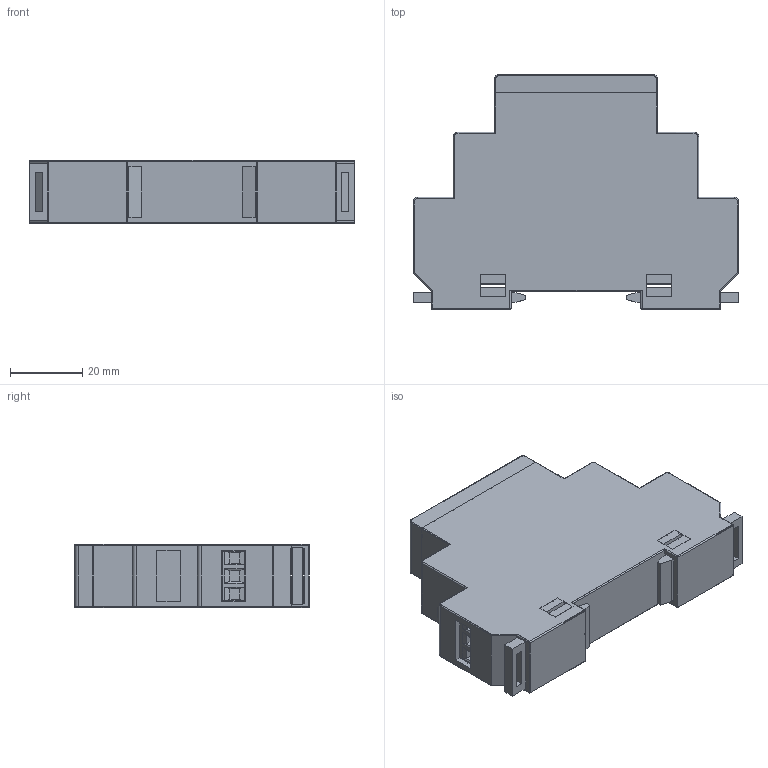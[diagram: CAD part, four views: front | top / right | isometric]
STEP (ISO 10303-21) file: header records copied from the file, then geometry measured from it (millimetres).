
FILE_DESCRIPTION (( 'STEP AP214' ), '1' );
FILE_NAME ('MCR-MA-001-UNI.step', '2014-08-19T12:00:50', ( '' ), ( '' ), 'SwSTEP 2.0', 'SolidWorks 2011', '' );
FILE_SCHEMA (( 'AUTOMOTIVE_DESIGN' ));
Length unit declared in the file: millimetre
Products named in the file (1): MCR-MA-001-UNI
Bounding box: 90 x 65 x 17.6 mm (x, y, z)
Volume: 17212.2 mm3; surface area: 45826.1 mm2
Topology: 8 solids, 8 shells, 1038 faces, 2827 edges, 1798 vertices
Faces by surface type: plane 854, cylinder 128, torus 48, bspline 8
Entity records: 44370 total; most frequent: CARTESIAN_POINT 6428, ORIENTED_EDGE 5638, DIRECTION 5297, EDGE_CURVE 2819, VECTOR 2235, LINE 2235, VERTEX_POINT 1798, AXIS2_PLACEMENT_3D 1531
